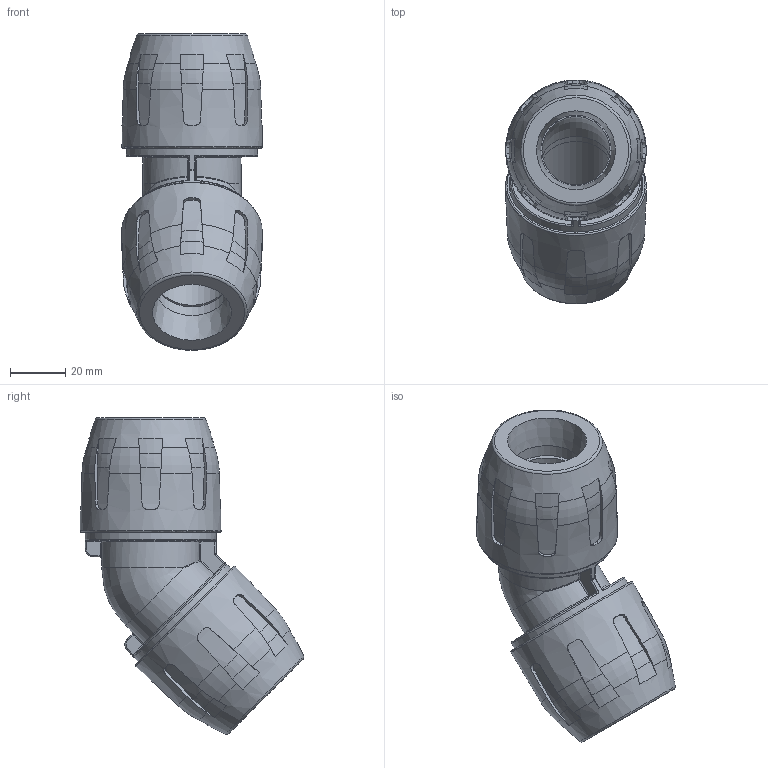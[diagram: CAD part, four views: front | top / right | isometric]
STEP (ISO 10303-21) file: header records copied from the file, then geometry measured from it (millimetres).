
FILE_DESCRIPTION( ( 'STEP AP214' ), '1' );
FILE_NAME( ' ', ' ', ( ' ' ), ( ' ' ), 'PSStep 11.0', 'VISI 17.0', ' ' );
FILE_SCHEMA( ( 'AUTOMOTIVE_DESIGN { 1 0 10303 214 1 1 1 1 }' ) );
Length unit declared in the file: millimetre
Products named in the file (3): 1; 2; 3
Bounding box: 51.17 x 81.21 x 115.02 mm (x, y, z)
Volume: 130135.6 mm3; surface area: 49560.6 mm2
Topology: 3 solids, 3 shells, 492 faces, 1364 edges, 877 vertices
Faces by surface type: plane 220, cone 96, bspline 72, cylinder 70, torus 25, sphere 9
Full cylindrical faces by diameter (mm): 24.7 x2, 25.7 x4, 37.774 x2, 38.2 x2, 39.2 x2, 41.7 x2, 42.6 x2, 47.6 x2, 48.6 x2
Entity records: 24900 total; most frequent: CARTESIAN_POINT 9524, ORIENTED_EDGE 2540, DIRECTION 2192, EDGE_CURVE 1270, AXIS2_PLACEMENT_3D 948, VERTEX_POINT 844, EDGE_LOOP 558, FACE_OUTER_BOUND 526
